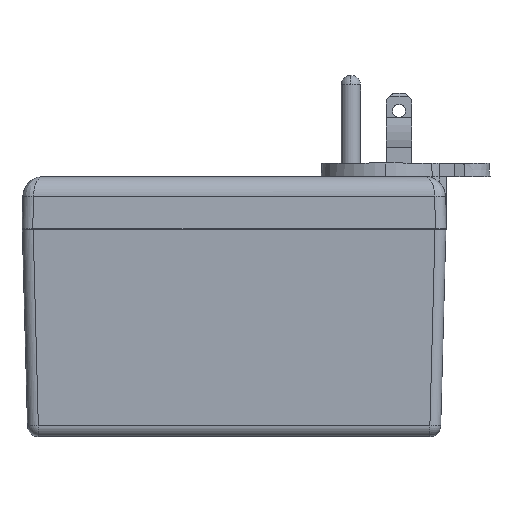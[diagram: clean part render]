
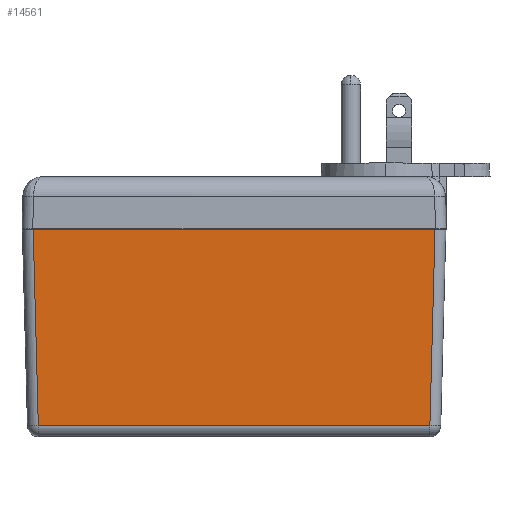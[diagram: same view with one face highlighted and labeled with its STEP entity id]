
A CAD part, top view. The second image highlights one B-rep face of the part: STEP entity #14561.
In plain terms, the highlighted planar face has unit normal (0, -0.026, 1).
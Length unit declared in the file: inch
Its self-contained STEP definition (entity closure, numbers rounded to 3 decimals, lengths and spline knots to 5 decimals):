
#278 = VECTOR ( 'NONE', #1863, 39.37008 ) ;
#279 = LINE ( 'NONE', #1864, #278 ) ;
#280 = VECTOR ( 'NONE', #1866, 39.37008 ) ;
#281 = LINE ( 'NONE', #1867, #280 ) ;
#282 = VECTOR ( 'NONE', #1869, 39.37008 ) ;
#283 = LINE ( 'NONE', #1870, #282 ) ;
#307 = LINE ( 'NONE', #743, #310 ) ;
#310 = VECTOR ( 'NONE', #705, 39.37008 ) ;
#705 = DIRECTION ( 'NONE',  ( 1., 0., 0. ) ) ;
#743 = CARTESIAN_POINT ( 'NONE',  ( -2.0545, -1.90275, 1.06617 ) ) ;
#1863 = DIRECTION ( 'NONE',  ( 1., 0., 0. ) ) ;
#1864 = CARTESIAN_POINT ( 'NONE',  ( -2.0545, 0., 1.116 ) ) ;
#1866 = DIRECTION ( 'NONE',  ( 0.026, -0.999, -0.026 ) ) ;
#1867 = CARTESIAN_POINT ( 'NONE',  ( -1.94961, 0.00274, 1.11607 ) ) ;
#1869 = DIRECTION ( 'NONE',  ( 0.026, 0.999, 0.026 ) ) ;
#1870 = CARTESIAN_POINT ( 'NONE',  ( 1.94679, -0.10471, 1.11326 ) ) ;
#2740 = FACE_OUTER_BOUND ( 'NONE', #11811, .T. ) ;
#4730 = AXIS2_PLACEMENT_3D ( 'NONE', #5592, #5589, #5588 ) ;
#5588 = DIRECTION ( 'NONE',  ( 0., -1., -0.026 ) ) ;
#5589 = DIRECTION ( 'NONE',  ( 0., -0.026, 1. ) ) ;
#5591 = PLANE ( 'NONE',  #4730 ) ;
#5592 = CARTESIAN_POINT ( 'NONE',  ( -2.0545, 0., 1.116 ) ) ;
#11811 = EDGE_LOOP ( 'NONE', ( #20243, #20242, #20241, #20240 ) ) ;
#12257 = VERTEX_POINT ( 'NONE', #17567 ) ;
#12258 = VERTEX_POINT ( 'NONE', #17566 ) ;
#12305 = VERTEX_POINT ( 'NONE', #17474 ) ;
#12321 = VERTEX_POINT ( 'NONE', #17443 ) ;
#14561 = ADVANCED_FACE ( 'NONE', ( #2740 ), #5591, .T. ) ;
#15578 = EDGE_CURVE ( 'NONE', #12305, #12321, #307, .T. ) ;
#15592 = EDGE_CURVE ( 'NONE', #12321, #12258, #283, .T. ) ;
#15593 = EDGE_CURVE ( 'NONE', #12257, #12305, #281, .T. ) ;
#15594 = EDGE_CURVE ( 'NONE', #12257, #12258, #279, .T. ) ;
#17443 = CARTESIAN_POINT ( 'NONE',  ( 1.89971, -1.90275, 1.06617 ) ) ;
#17474 = CARTESIAN_POINT ( 'NONE',  ( -1.89971, -1.90275, 1.06617 ) ) ;
#17566 = CARTESIAN_POINT ( 'NONE',  ( 1.94954, 0., 1.116 ) ) ;
#17567 = CARTESIAN_POINT ( 'NONE',  ( -1.94954, 0., 1.116 ) ) ;
#20240 = ORIENTED_EDGE ( 'NONE', *, *, #15593, .T. ) ;
#20241 = ORIENTED_EDGE ( 'NONE', *, *, #15594, .F. ) ;
#20242 = ORIENTED_EDGE ( 'NONE', *, *, #15592, .T. ) ;
#20243 = ORIENTED_EDGE ( 'NONE', *, *, #15578, .T. ) ;
